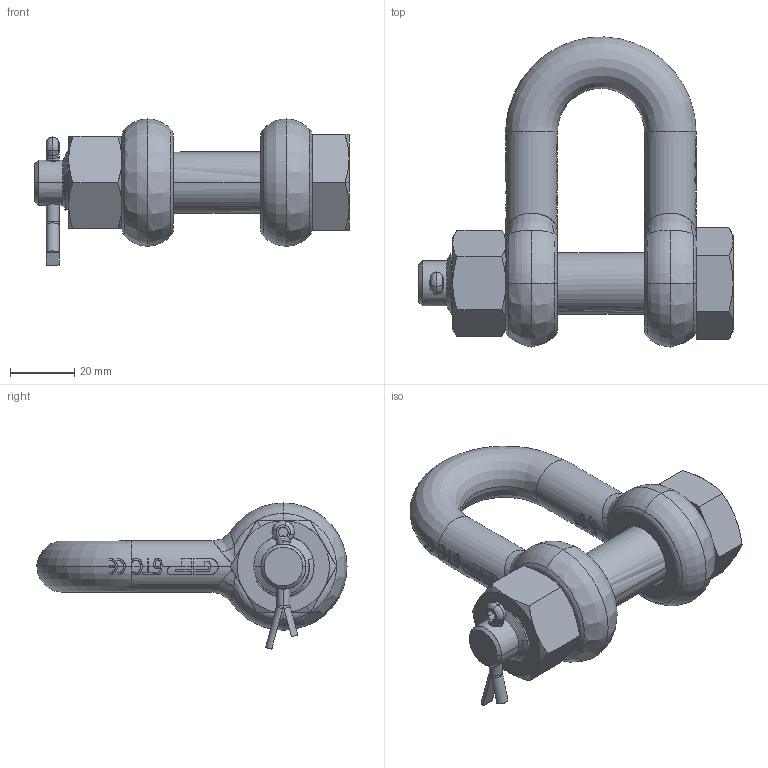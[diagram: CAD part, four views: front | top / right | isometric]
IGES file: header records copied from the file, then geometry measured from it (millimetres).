
Start section: START RECORD GO HERE.
Global section: file name: 3,25.igs; native system: Solidworks 2009      A Version 5 Release 17 ; preprocessor: Solidworks                 ; author: v.b.; organization: P4; date: 20090807.084232; units: millimetre
Bounding box: 97.5 x 96.23 x 45.34 mm (x, y, z)
Surface area: 27443.6 mm2 (no closed solid volume)
Topology: 0 solids, 0 shells, 753 faces, 4872 edges, 4864 vertices
Faces by surface type: bspline 321, plane 237, revolution 195
